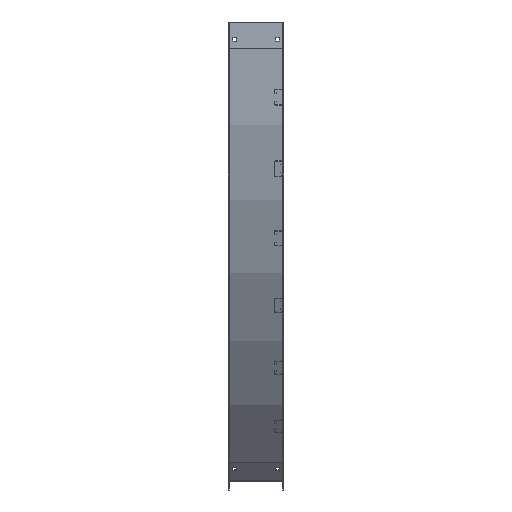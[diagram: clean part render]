
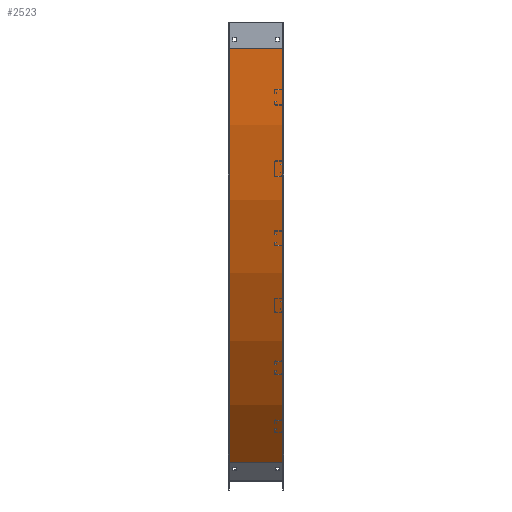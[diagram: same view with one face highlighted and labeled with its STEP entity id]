
A CAD part, left-side view. The second image highlights one B-rep face of the part: STEP entity #2523.
In plain terms, the highlighted cylindrical face has radius 1681.23 mm (diameter 3362.45 mm), a partial arc.
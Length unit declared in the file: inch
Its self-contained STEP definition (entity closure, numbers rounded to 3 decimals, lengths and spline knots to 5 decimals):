
#1560=CARTESIAN_POINT('',(-6.12,-66.09,3.));
#1561=DIRECTION('',(1.,0.,0.));
#1562=DIRECTION('',(0.,1.,0.));
#1563=AXIS2_PLACEMENT_3D('',#1560,#1561,#1562);
#1753=DIRECTION('',(-1.,0.,0.));
#1754=VECTOR('',#1753,6.02);
#1755=CARTESIAN_POINT('',(-0.1,-19.2866,49.8034));
#1756=LINE('',#1755,#1754);
#1793=DIRECTION('',(-1.,0.,0.));
#1794=VECTOR('',#1793,6.02);
#1795=CARTESIAN_POINT('',(-0.1,0.1,3.));
#1796=LINE('',#1795,#1794);
#1797=CARTESIAN_POINT('',(-0.1,-66.09,3.));
#1798=DIRECTION('',(1.,0.,0.));
#1799=DIRECTION('',(0.,1.,0.));
#1800=AXIS2_PLACEMENT_3D('',#1797,#1798,#1799);
#1924=CARTESIAN_POINT('',(-0.1,0.1,3.));
#1925=CARTESIAN_POINT('',(-6.12,0.1,3.));
#1926=VERTEX_POINT('',#1924);
#1927=VERTEX_POINT('',#1925);
#1948=CARTESIAN_POINT('',(-0.1,-19.2866,49.8034));
#1949=CARTESIAN_POINT('',(-6.12,-19.2866,49.8034));
#1950=VERTEX_POINT('',#1948);
#1951=VERTEX_POINT('',#1949);
#2512=CARTESIAN_POINT('',(-1.,-66.09,3.));
#2513=DIRECTION('',(1.,0.,0.));
#2514=DIRECTION('',(0.,-1.,0.));
#2515=AXIS2_PLACEMENT_3D('',#2512,#2513,#2514);
#2516=CYLINDRICAL_SURFACE('',#2515,66.19);
#2517=ORIENTED_EDGE('',*,*,#2297,.F.);
#2518=ORIENTED_EDGE('',*,*,#2338,.T.);
#2519=ORIENTED_EDGE('',*,*,#2485,.T.);
#2520=ORIENTED_EDGE('',*,*,#2275,.F.);
#2521=EDGE_LOOP('',(#2517,#2518,#2519,#2520));
#2522=FACE_OUTER_BOUND('',#2521,.F.);
#2523=ADVANCED_FACE('',(#2522),#2516,.T.);
#1564=CIRCLE('',#1563,66.19);
#1801=CIRCLE('',#1800,66.19);
#2275=EDGE_CURVE('',#1927,#1951,#1564,.T.);
#2297=EDGE_CURVE('',#1926,#1927,#1796,.T.);
#2338=EDGE_CURVE('',#1926,#1950,#1801,.T.);
#2485=EDGE_CURVE('',#1950,#1951,#1756,.T.);
